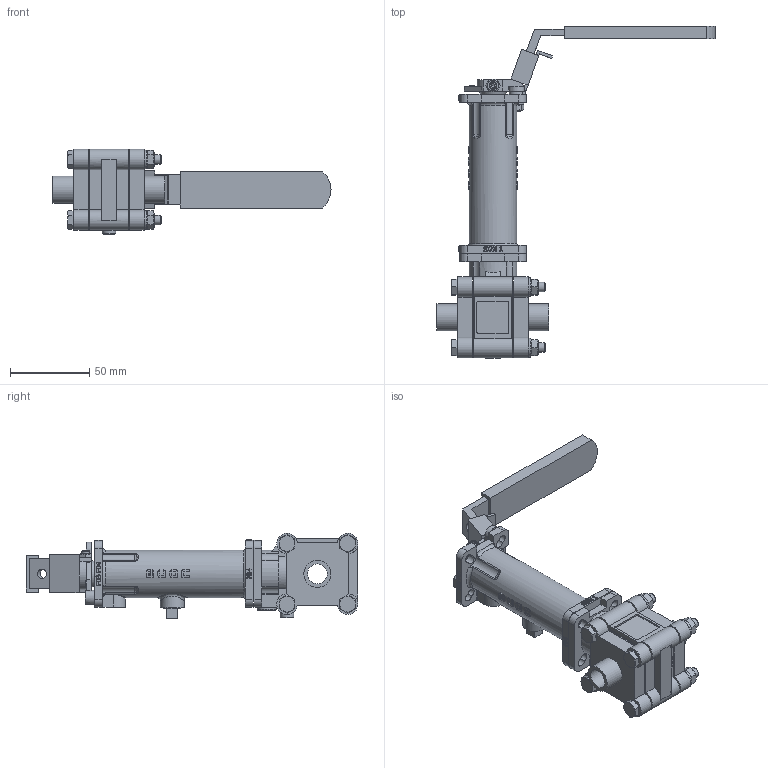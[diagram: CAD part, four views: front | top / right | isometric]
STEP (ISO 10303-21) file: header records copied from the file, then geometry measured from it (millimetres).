
FILE_DESCRIPTION(/* description */ ('Eriks item no: 14229940'),/* implementation_level */ '2;1');
FILE_NAME(/* name */ 'L:\DATA\ENG\Inventor\Econ 3D modellen\kogelkranen\7642 +7412\7642-DN10-FB + 7412-size1.stp',/* time_stamp */ '2024-01-22T16:01:49+01:00',/* author */ ('roger.thijssen'),/* organization */ (''),/* preprocessor_version */ 'ST-DEVELOPER v18',/* originating_system */ 'Autodesk Inventor 2020',/* authorisation */ '');
FILE_SCHEMA (('CONFIG_CONTROL_DESIGN'));
Length unit declared in the file: millimetre
Products named in the file (1): Ball valve + stem ext., 7642-DN10-FB + 7412-size1
Bounding box: 175.3 x 209.28 x 53.93 mm (x, y, z)
Volume: 211974.2 mm3; surface area: 66741 mm2
Topology: 3 solids, 3 shells, 1173 faces, 3142 edges, 2055 vertices
Faces by surface type: plane 696, cylinder 207, bspline 187, cone 72, torus 11
Full cylindrical faces by diameter (mm): 5 x3, 5.5 x5, 6 x9, 7 x12, 8.5 x1, 8.6 x1, 8.9 x4, 9 x1, 11.112 x1, 11.2 x2, 12 x2, 12.48 x2, 15 x2, 16 x1, 17.1 x2, 22.5 x2, 23 x1, 25 x1, 29 x1, 30 x1, 39.5 x2
Entity records: 42580 total; most frequent: CARTESIAN_POINT 13035, ORIENTED_EDGE 6282, DIRECTION 5281, EDGE_CURVE 3141, VERTEX_POINT 2055, LINE 1861, VECTOR 1861, AXIS2_PLACEMENT_3D 1710
